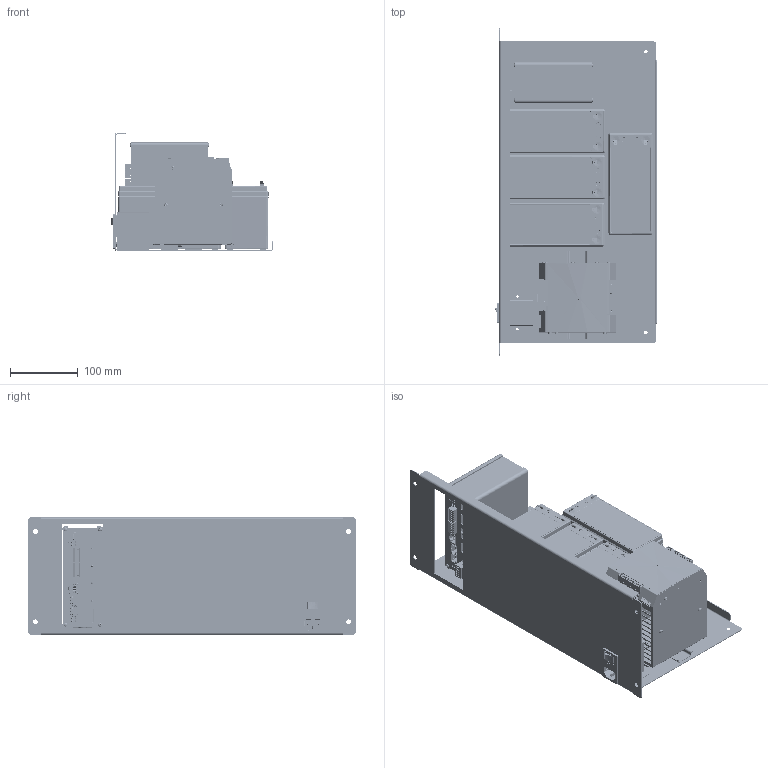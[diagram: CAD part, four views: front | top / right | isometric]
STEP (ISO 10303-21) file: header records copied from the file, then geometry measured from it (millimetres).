
FILE_DESCRIPTION(/* description */ ('Unknown'),/* implementation_level */ '2;1');
FILE_NAME(/* name */ 'SHELF-4U-IP-SUP-PB7',/* time_stamp */ '2026-03-30T08:16:38+02:00',/* author */ ('Unknown'),/* organization */ ('Unknown'),/* preprocessor_version */ 'ST-DEVELOPER v19.4',/* originating_system */ 'Solid Edge',/* authorisation */ 'Unknown');
FILE_SCHEMA (('AP203_CONFIGURATION_CONTROLLED_3D_DESIGN_OF_MECHANICAL_PARTS_AND_ASSEMBLIES_MIM_LF { 1 0 10303 203 3 1 4 }','AUTOMOTIVE_DESIGN {1 0 10303 214 3 1 1}'));
Products named in the file (141): SHELF-4U-IP-SUP-PB7; SHELF-Plech; Din lista_kr; Din lista_dl; drzak_zdroje2; CBI485A; M3M_00F_030_A5_Bottom BOX_0; M3M_00C_030_A3_Top BOX_0; MGP.451.90MA5_Gancio Din_0; A24_323_188A7 Power-Ass_0; A24_323_188A7 Power_0; LED-D3-90gr-R_0; Screw GB_T 2171.1 M3 x 6_0; Screw GB_T 2171.1 M3 x 13 Autofilettante_0; M4D_109_076_A1_Etichetta_Generica_0; Etichetta 35x60 Senza Scritte_0; A24_323_188A7 Logica-Ass_0; A24_323_188A7 Logica_0; Strip 2P_4_0; SAURO 3P p.10 msq03002_0; SAURO 3P p.5 msq03001_0; SAURO 2P p.5 msq02001_0; AMP MODUII 2 Poli - TE c-0280377-01-r2-3d_0; RJ 45 615008138021 Verticale_0; 1_0; 2_0; 3_0; 4_0; Potenziometro CA9H2.5 Orizz_Perno_0; Potenziometro CA9H2.5 Orizzontale_0; Perno Trimmer Piccolo_0; 2G-2S.1.4.G_oa_0; Profil 140_zakaznik; 2G-2S.1.4.G; Zadni_panylek; 2G-2S14_MAIN_UP3_zakaznik; D10; 795702640; Cylinder; 795702768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
Assembly tree (201 placements, depth 6):
  SHELF-4U-IP-SUP-PB7
    SHELF-Plech
    Din lista_kr
    Din lista_dl
    drzak_zdroje2
    CBI485A
      M3M_00F_030_A5_Bottom BOX_0
      M3M_00C_030_A3_Top BOX_0
      MGP.451.90MA5_Gancio Din_0
      A24_323_188A7 Power-Ass_0
        A24_323_188A7 Power_0
        LED-D3-90gr-R_0  x3
      Screw GB_T 2171.1 M3 x 6_0  x4
      Screw GB_T 2171.1 M3 x 13 Autofilettante_0  x5
      M4D_109_076_A1_Etichetta_Generica_0
      Etichetta 35x60 Senza Scritte_0
      A24_323_188A7 Logica-Ass_0
        A24_323_188A7 Logica_0
        Strip 2P_4_0
        SAURO 3P p.10 msq03002_0  x2
        SAURO 3P p.5 msq03001_0  x2
        SAURO 2P p.5 msq02001_0  x2
        AMP MODUII 2 Poli - TE c-0280377-01-r2-3d_0
        RJ 45 615008138021 Verticale_0
          1_0
          2_0
          3_0  x4
          4_0  x4
        Potenziometro CA9H2.5 Orizz_Perno_0
          Potenziometro CA9H2.5 Orizzontale_0
          Perno Trimmer Piccolo_0
    2G-2S.1.4.G_oa_0
      Profil 140_zakaznik
      2G-2S.1.4.G
      Zadni_panylek
      2G-2S14_MAIN_UP3_zakaznik
        D10
          795702640
            Cylinder
          795702768
            Sphere
        D6
          814278400
            Cylinder_0
          749914560
            Sphere_0
        D9
          795700336
            Cylinder_1
          795700464
            Sphere_1
        D5
          795702256
            Cylinder_2
          795702384
            Sphere_2
        1664093
        LDH1
          1033109184
            Extruded_15
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Bounding box: 239.16 x 482.5 x 173.4 mm (x, y, z)
Volume: 4201642.8 mm3; surface area: 1054806.1 mm2
Topology: 174 solids, 180 shells, 20630 faces, 59100 edges, 39106 vertices
Faces by surface type: plane 14588, cylinder 4682, bspline 752, torus 311, sphere 152, cone 145
Full cylindrical faces by diameter (mm): 0.003 x1, 0.02 x1, 0.6 x2, 0.9 x2, 1 x235, 1.4 x16, 1.5 x17, 1.52 x6, 1.78 x2, 1.8 x14, 1.9 x36, 2 x9, 2.1 x12, 2.459 x4, 2.5 x5, 2.6 x2, 2.675 x9, 2.8 x26, 2.9 x17, 3 x19, 3.1 x13, 3.2 x1, 3.4 x8, 3.5 x12, 3.85 x16, 4 x35, 5 x4, 5.2 x2, 5.6 x8, 6 x1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
Entity records: 539522 total; most frequent: CARTESIAN_POINT 149631, ORIENTED_EDGE 77946, DIRECTION 61911, EDGE_CURVE 38973, VERTEX_POINT 25847, LINE 25041, VECTOR 25041, AXIS2_PLACEMENT_3D 18435
